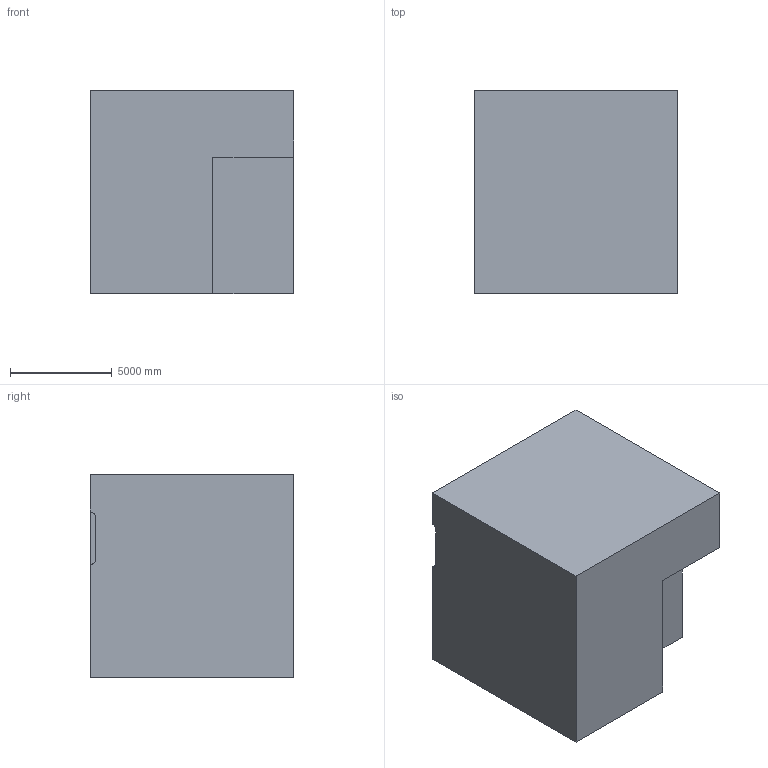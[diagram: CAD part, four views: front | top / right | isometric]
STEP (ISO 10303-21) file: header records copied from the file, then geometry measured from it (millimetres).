
FILE_DESCRIPTION (( 'STEP AP203' ), '1' );
FILE_NAME ('38.STEP', '2022-09-02T13:47:03', ( 'user' ), ( '' ), 'SwSTEP 2.0', 'SolidWorks 2021', '' );
FILE_SCHEMA (( 'CONFIG_CONTROL_DESIGN' ));
Length unit declared in the file: centimetre
Products named in the file (1): 38
Bounding box: 10000 x 10000 x 10000 mm (x, y, z)
Volume: 868774099573 mm3; surface area: 697852184.2 mm2
Topology: 1 solids, 1 shells, 24 faces, 57 edges, 38 vertices
Faces by surface type: plane 18, cylinder 6
Entity records: 770 total; most frequent: CARTESIAN_POINT 120, DIRECTION 119, ORIENTED_EDGE 114, EDGE_CURVE 57, VECTOR 45, LINE 45, VERTEX_POINT 38, AXIS2_PLACEMENT_3D 37
